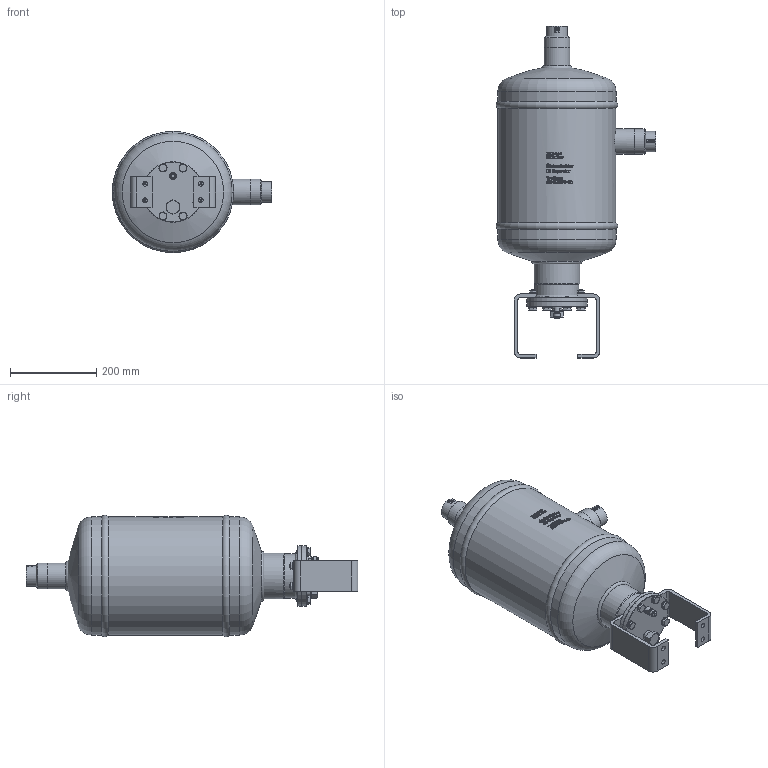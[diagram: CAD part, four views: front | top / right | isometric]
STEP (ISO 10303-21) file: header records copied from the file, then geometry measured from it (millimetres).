
FILE_DESCRIPTION(/* description */ (''),/* implementation_level */ '2;1');
FILE_NAME(/* name */ 'P:\OS\OS-54_42FS-CD\OS-54_42FS-CD.stp',/* time_stamp */ '2017-10-04T08:09:03+02:00',/* author */ ('neufeld'),/* organization */ (''),/* preprocessor_version */ 'ST-DEVELOPER v16.1',/* originating_system */ 'Autodesk Inventor 2016',/* authorisation */ '');
FILE_SCHEMA (('AUTOMOTIVE_DESIGN { 1 0 10303 214 3 1 1 }'));
Length unit declared in the file: millimetre
Products named in the file (2): OS-54_42FS-CD; OS-54_42FS-CD_1
Assembly tree (1 placements, depth 2):
  OS-54_42FS-CD_1
    OS-54_42FS-CD
Bounding box: 368.91 x 767.71 x 280.82 mm (x, y, z)
Volume: 26227032.6 mm3; surface area: 634939.3 mm2
Topology: 1 solids, 6 shells, 1548 faces, 4071 edges, 2656 vertices
Faces by surface type: plane 807, bspline 393, cylinder 233, cone 103, torus 10, sphere 2
Full cylindrical faces by diameter (mm): 7.2 x1, 8 x8, 8.376 x4, 8.5 x4, 9.188 x8, 10 x12, 10.5 x8, 11 x5, 12.1 x1, 12.9 x1, 13.5 x1, 15 x1, 15.4 x8, 15.7 x1, 16 x1, 17 x1, 20 x1, 22.5 x1, 25.2 x1, 42.2 x2, 47 x2, 59 x2, 59.5 x2, 102 x1, 106 x1, 135 x1, 140 x2, 273 x1, 273.2 x2
Entity records: 54574 total; most frequent: CARTESIAN_POINT 19233, ORIENTED_EDGE 7762, DIRECTION 6483, EDGE_CURVE 3881, VERTEX_POINT 2602, AXIS2_PLACEMENT_3D 2413, EDGE_LOOP 1843, LINE 1657
